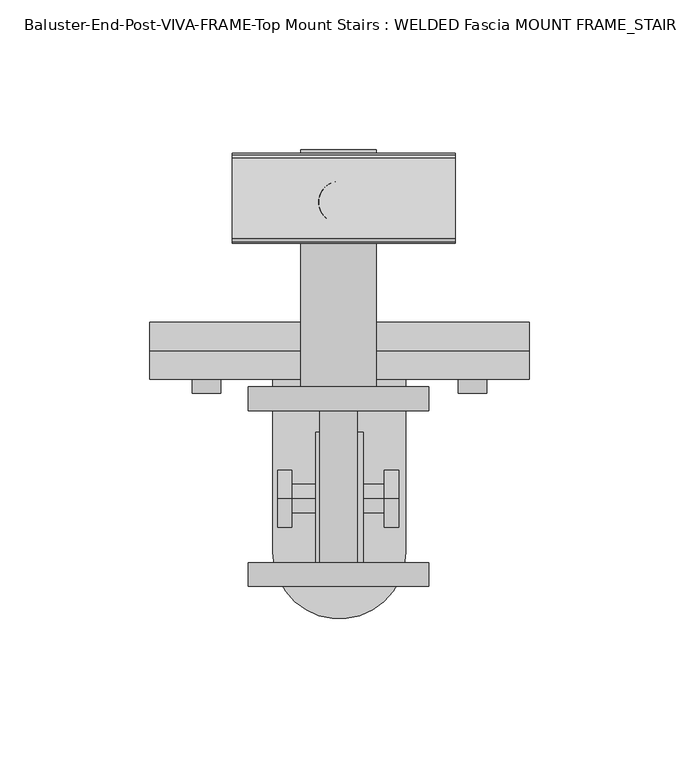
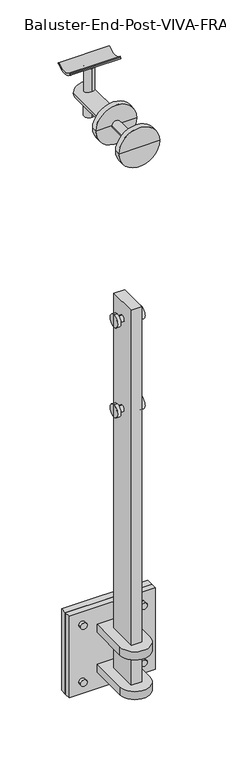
"""IFC4 building model written with IfcOpenShell, lengths in millimetres: proxy geometry, Baluster-End-Post-VIVA-FRAME-Top Mount Stairs : WELDED Fascia MOUNT FRAME_STAIR."""

from ifc_helpers import new_model, si_unit, point, frame, frame_2d, origin, place, context, project, spatial, polyline, circle_curve, trimmed, segment, composite_curve, outline, extrude, source, transform, mapped, element, save
from ifc_brep_helpers import plane_surface, cylinder_surface, advanced_brep


def baluster_end_post_viva_frame_top_mount_stairs_welded_fascia_58373508(model_context):
    return source(origin(), model_context, "Body", "SolidModel", [
        advanced_brep(
        [(-30.4813346, -152.3441, -73.6790445), (-6.6688346, -152.3441, -73.6790445), (6.0311654, -152.3441, -73.6790445), (29.8436654, -152.3441, -73.6790445), (-30.4813346, -160.2816, -73.6790445), (29.8436654, -160.2816, -73.6790445), (-30.4813346, -93.6066, -73.6790445), (-13.0188346, -93.6066, -73.6790445), (12.3811654, -93.6066, -73.6790445), (29.8436654, -93.6066, -73.6790445), (-30.4813346, -101.5441, -73.6790445), (29.8436654, -101.5441, -73.6790445), (-0.3188346, -160.2816, -73.6790445), (-13.0188346, -14.2316, -73.6790445), (-0.3188346, -14.2316, -73.6790445), (12.3811654, -14.2316, -73.6790445), (-6.6688346, -101.5441, -73.6790445), (6.0311654, -101.5441, -73.6790445)],
        [
            (0, 1),
            (1, 2, circle_curve(frame((-0.3188346, -152.3441, -73.6790445), z_axis=(0.0, -1.0, 0.0), x_axis=(1.0, 0.0, 0.0)), 6.35)),
            (2, 3),
            (3, 0, circle_curve(frame((-0.3188346, -152.3441, -73.6790445), z_axis=(0.0, 1.0, 0.0), x_axis=(1.0, 0.0, 0.0)), 30.1625)),
            (4, 0),
            (3, 5),
            (5, 4, circle_curve(frame((-0.3188346, -160.2816, -73.6790445), z_axis=(0.0, 1.0, 0.0), x_axis=(1.0, 0.0, 0.0)), 30.1625)),
            (6, 7),
            (7, 8, circle_curve(frame((-0.3188346, -93.6066, -73.6790445), z_axis=(0.0, -1.0, 0.0), x_axis=(1.0, 0.0, 0.0)), 12.7)),
            (8, 9),
            (9, 6, circle_curve(frame((-0.3188346, -93.6066, -73.6790445), z_axis=(0.0, 1.0, 0.0), x_axis=(1.0, 0.0, 0.0)), 30.1625)),
            (10, 6),
            (9, 11),
            (11, 10, circle_curve(frame((-0.3188346, -101.5441, -73.6790445), z_axis=(0.0, 1.0, 0.0), x_axis=(1.0, 0.0, 0.0)), 30.1625)),
            (3, 0, circle_curve(frame((-0.3188346, -152.3441, -73.6790445), z_axis=(0.0, -1.0, 0.0), x_axis=(1.0, 0.0, 0.0)), 30.1625)),
            (4, 5, circle_curve(frame((-0.3188346, -160.2816, -73.6790445), z_axis=(0.0, 1.0, 0.0), x_axis=(1.0, 0.0, 0.0)), 30.1625)),
            (12, 4),
            (5, 12),
            (13, 14),
            (14, 15),
            (15, 13, circle_curve(frame((-0.3188346, -14.2316, -73.6790445), z_axis=(0.0, 1.0, 0.0), x_axis=(1.0, 0.0, 0.0)), 12.7)),
            (13, 15, circle_curve(frame((-0.3188346, -14.2316, -73.6790445), z_axis=(0.0, 1.0, 0.0), x_axis=(1.0, 0.0, 0.0)), 12.7)),
            (7, 13),
            (15, 8),
            (7, 8, circle_curve(frame((-0.3188346, -93.6066, -73.6790445), z_axis=(0.0, 1.0, 0.0), x_axis=(1.0, 0.0, 0.0)), 12.7)),
            (6, 9, circle_curve(frame((-0.3188346, -93.6066, -73.6790445), z_axis=(0.0, 1.0, 0.0), x_axis=(1.0, 0.0, 0.0)), 30.1625)),
            (10, 11, circle_curve(frame((-0.3188346, -101.5441, -73.6790445), z_axis=(0.0, 1.0, 0.0), x_axis=(1.0, 0.0, 0.0)), 30.1625)),
            (16, 10),
            (11, 17),
            (17, 16, circle_curve(frame((-0.3188346, -101.5441, -73.6790445), z_axis=(0.0, 1.0, 0.0), x_axis=(1.0, 0.0, 0.0)), 6.35)),
            (16, 17, circle_curve(frame((-0.3188346, -101.5441, -73.6790445), z_axis=(0.0, 1.0, 0.0), x_axis=(1.0, 0.0, 0.0)), 6.35)),
            (1, 16),
            (17, 2),
            (1, 2, circle_curve(frame((-0.3188346, -152.3441, -73.6790445), z_axis=(0.0, 1.0, 0.0), x_axis=(1.0, 0.0, 0.0)), 6.35)),
        ],
        [
            plane_surface(frame((-0.3188346, -152.3441, -73.6790445), z_axis=(0.0, 1.0, 0.0), x_axis=(1.0, 0.0, 0.0))),
            cylinder_surface(frame((-0.3188346, -1625.5441, -73.6790445), z_axis=(0.0, -1.0, 0.0), x_axis=(1.0, 0.0, 0.0)), 30.1625),
            plane_surface(frame((-0.3188346, -93.6066, -73.6790445), z_axis=(0.0, 1.0, 0.0), x_axis=(1.0, 0.0, 0.0))),
            plane_surface(frame((-0.3188346, -160.2816, -73.6790445), z_axis=(0.0, -1.0, 0.0), x_axis=(1.0, 0.0, 0.0))),
            plane_surface(frame((-0.3188346, -14.2316, -73.6790445), z_axis=(0.0, 1.0, 0.0), x_axis=(1.0, 0.0, 0.0))),
            cylinder_surface(frame((-0.3188346, -1625.5441, -73.6790445), z_axis=(0.0, -1.0, 0.0), x_axis=(1.0, 0.0, 0.0)), 12.7),
            plane_surface(frame((-0.3188346, -101.5441, -73.6790445), z_axis=(0.0, -1.0, 0.0), x_axis=(1.0, 0.0, 0.0))),
            cylinder_surface(frame((-0.3188346, -1625.5441, -73.6790445), z_axis=(0.0, -1.0, 0.0), x_axis=(1.0, 0.0, 0.0)), 6.35),
        ],
        [
            (0, [[1, 2, 3, 4]]),
            (1, [[5, -4, 6, 7]]),
            (2, [[8, 9, 10, 11]]),
            (1, [[12, -11, 13, 14]]),
            (1, [[-6, 15, -5, 16]]),
            (3, [[17, -7, 18]]),
            (3, [[-18, -16, -17]]),
            (4, [[19, 20, 21]]),
            (4, [[-20, -19, 22]]),
            (5, [[23, -21, 24, -9]]),
            (5, [[-24, -22, -23, 25]]),
            (2, [[-10, -25, -8, 26]]),
            (1, [[-13, -26, -12, 27]]),
            (6, [[28, -14, 29, 30]]),
            (6, [[-29, -27, -28, 31]]),
            (7, [[32, -30, 33, -2]]),
            (7, [[-33, -31, -32, 34]]),
            (0, [[-3, -34, -1, -15]]),
        ],
    ),
        extrude(outline(composite_curve([segment(trimmed(circle_curve(frame_2d((0.0, 7.0)), 7.0), [point((0.0, 14.0))], [point((0.0, 0.0))], False, "CARTESIAN"), True, "CONTINUOUS"), segment(trimmed(circle_curve(frame_2d((0.0, 7.0)), 7.0), [point((0.0, 0.0))], [point((0.0, 14.0))], False, "CARTESIAN"), True, "CONTINUOUS")], self_intersect=False)), frame((-0.4484997, -38.8292391, -100.6444351), z_axis=(0.0059036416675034, 0.0, 0.9999825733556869), x_axis=(0.9999825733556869, 0.0, -0.0059036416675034)), (0.0, 0.0, 1.0), 75.97),
        extrude(outline(composite_curve([segment(polyline([(5.2466063, -13.9247916), (4.2292193, -14.9511812)]), True, "CONTINUOUS"), segment(trimmed(circle_curve(frame_2d((3.1638974, -13.8952033)), 1.5), [point((4.2292193, -14.9511812))], [point((2.0329756, -14.8806048))], False, "CARTESIAN"), True, "CONTINUOUS"), segment(trimmed(circle_curve(frame_2d((18.6575251, -0.3952033)), 22.05), [point((2.0329756, -14.8806048))], [point((2.0329756, 14.0901981))], False, "CARTESIAN"), True, "CONTINUOUS"), segment(trimmed(circle_curve(frame_2d((3.1638974, 13.1047967)), 1.5), [point((2.0329756, 14.0901981))], [point((4.2292193, 14.1607745))], False, "CARTESIAN"), True, "CONTINUOUS"), segment(polyline([(4.2292193, 14.1607745), (5.2466063, 13.1343849)]), True, "CONTINUOUS"), segment(trimmed(circle_curve(frame_2d((18.6575251, -0.3952033)), 19.05), [point((5.2466063, 13.1343849))], [point((5.2466063, -13.9247916))], True, "CARTESIAN"), True, "CONTINUOUS")], self_intersect=False)), frame((38.6744355, -30.1020067, -21.2832848), z_axis=(-0.9999997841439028, 0.0, 0.0006570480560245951), x_axis=(0.0006570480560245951, 0.0, 0.9999997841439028)), (0.0, 0.0, 1.0), 74.5229187),
        extrude(outline(polyline([(7.9375, -153.1423118), (-7.9375, -153.1423118), (-7.9375, -108.6923118), (7.9375, -108.6923118), (7.9375, -153.1423118)])), frame((0.0, 0.0, -920.3786931), z_axis=(0.0, 0.0, 1.0), x_axis=(1.0, 0.0, 0.0)), (0.0, 0.0, 1.0), 590.6930486),
        extrude(outline(composite_curve([segment(polyline([(-22.225, -148.7552651), (-22.225, -90.8543584), (22.225, -90.8543584), (22.225, -148.7552651)]), True, "CONTINUOUS"), segment(trimmed(circle_curve(frame_2d((0.0, -148.7552651)), 22.225), [point((22.225, -148.7552651))], [point((-22.225, -148.7552651))], False, "CARTESIAN"), True, "CONTINUOUS")], self_intersect=False)), frame((0.0, 0.0, -926.6345072), z_axis=(0.0, 0.0, 1.0), x_axis=(1.0, 0.0, 0.0)), (0.0, 0.0, 1.0), 12.7),
        extrude(outline(composite_curve([segment(polyline([(22.225, -90.8543584), (22.225, -148.7552651)]), True, "CONTINUOUS"), segment(trimmed(circle_curve(frame_2d((0.0, -148.7552651)), 22.225), [point((22.225, -148.7552651))], [point((-22.225, -148.7552651))], False, "CARTESIAN"), True, "CONTINUOUS"), segment(polyline([(-22.225, -148.7552651), (-22.225, -90.8543584), (22.225, -90.8543584)]), True, "CONTINUOUS")], self_intersect=False)), frame((0.0, 0.0, -864.7093072), z_axis=(0.0, 0.0, 1.0), x_axis=(1.0, 0.0, 0.0)), (0.0, 0.0, 1.0), 12.7),
        extrude(outline(composite_curve([segment(trimmed(circle_curve(frame_2d((-844.0591072, 44.4449319)), 4.7752), [point((-844.0591072, 49.2201319))], [point((-844.0591072, 39.6697319))], False, "CARTESIAN"), True, "CONTINUOUS"), segment(trimmed(circle_curve(frame_2d((-844.0591072, 44.4449319)), 4.7752), [point((-844.0591072, 39.6697319))], [point((-844.0591072, 49.2201319))], False, "CARTESIAN"), True, "CONTINUOUS")], self_intersect=False)), frame((0.0, -95.6295584, 0.0), z_axis=(0.0, 1.0, 0.0), x_axis=(0.0, 0.0, 1.0)), (0.0, 0.0, 1.0), 14.3002),
        extrude(outline(composite_curve([segment(trimmed(circle_curve(frame_2d((-844.0591072, -44.4449319)), 4.7752), [point((-844.0591072, -39.6697319))], [point((-844.0591072, -49.2201319))], False, "CARTESIAN"), True, "CONTINUOUS"), segment(trimmed(circle_curve(frame_2d((-844.0591072, -44.4449319)), 4.7752), [point((-844.0591072, -49.2201319))], [point((-844.0591072, -39.6697319))], False, "CARTESIAN"), True, "CONTINUOUS")], self_intersect=False)), frame((0.0, -95.6295584, 0.0), z_axis=(0.0, 1.0, 0.0), x_axis=(0.0, 0.0, 1.0)), (0.0, 0.0, 1.0), 14.3002),
        extrude(outline(composite_curve([segment(trimmed(circle_curve(frame_2d((-932.9591072, -44.4449319)), 4.7752), [point((-932.9591072, -39.6697319))], [point((-932.9591072, -49.2201319))], False, "CARTESIAN"), True, "CONTINUOUS"), segment(trimmed(circle_curve(frame_2d((-932.9591072, -44.4449319)), 4.7752), [point((-932.9591072, -49.2201319))], [point((-932.9591072, -39.6697319))], False, "CARTESIAN"), True, "CONTINUOUS")], self_intersect=False)), frame((0.0, -95.6295584, 0.0), z_axis=(0.0, 1.0, 0.0), x_axis=(0.0, 0.0, 1.0)), (0.0, 0.0, 1.0), 14.3002),
        extrude(outline(composite_curve([segment(trimmed(circle_curve(frame_2d((-932.9591072, 44.4449319)), 4.7752), [point((-932.9591072, 49.2201319))], [point((-932.9591072, 39.6697319))], False, "CARTESIAN"), True, "CONTINUOUS"), segment(trimmed(circle_curve(frame_2d((-932.9591072, 44.4449319)), 4.7752), [point((-932.9591072, 39.6697319))], [point((-932.9591072, 49.2201319))], False, "CARTESIAN"), True, "CONTINUOUS")], self_intersect=False)), frame((0.0, -95.6295584, 0.0), z_axis=(0.0, 1.0, 0.0), x_axis=(0.0, 0.0, 1.0)), (0.0, 0.0, 1.0), 14.3002),
        extrude(outline(polyline([(63.4980216, -81.3293584), (-63.4980216, -81.3293584), (-63.4980216, -71.8043584), (63.4980216, -71.8043584), (63.4980216, -81.3293584)])), frame((0.0, 0.0, -952.0091072), z_axis=(0.0, 0.0, 1.0), x_axis=(1.0, 0.0, 0.0)), (0.0, 0.0, 1.0), 127.0),
        extrude(outline(polyline([(63.4980216, -90.8543584), (-63.4980216, -90.8543584), (-63.4980216, -81.3293584), (63.4980216, -81.3293584), (63.4980216, -90.8543584)])), frame((0.0, 0.0, -952.0091072), z_axis=(0.0, 0.0, 1.0), x_axis=(1.0, 0.0, 0.0)), (0.0, 0.0, 1.0), 127.0),
        advanced_brep(
        [(-20.6502, -130.9116, -504.8504), (-20.6502, -130.9116, -485.7496), (-20.6502, -130.9116, -495.3), (-15.875, -130.9116, -504.8504), (-15.875, -130.9116, -485.7496), (-15.875, -130.9116, -500.0752), (-15.875, -130.9116, -490.5248), (15.0622, -130.9116, -500.0752), (15.0622, -130.9116, -490.5248), (15.0622, -130.9116, -504.8504), (15.0622, -130.9116, -485.7496), (19.8374, -130.9116, -504.8504), (19.8374, -130.9116, -485.7496), (19.8374, -130.9116, -495.3)],
        [
            (0, 1, circle_curve(frame((-20.6502, -130.9116, -495.3), z_axis=(-1.0, 0.0, 0.0), x_axis=(0.0, 0.0, 1.0)), 9.5504)),
            (1, 2),
            (2, 0),
            (1, 0, circle_curve(frame((-20.6502, -130.9116, -495.3), z_axis=(-1.0, 0.0, 0.0), x_axis=(0.0, 0.0, 1.0)), 9.5504)),
            (3, 4, circle_curve(frame((-15.875, -130.9116, -495.3), z_axis=(-1.0, 0.0, 0.0), x_axis=(0.0, 0.0, 1.0)), 9.5504)),
            (4, 1),
            (0, 3),
            (4, 3, circle_curve(frame((-15.875, -130.9116, -495.3), z_axis=(-1.0, 0.0, 0.0), x_axis=(0.0, 0.0, 1.0)), 9.5504)),
            (5, 6, circle_curve(frame((-15.875, -130.9116, -495.3), z_axis=(-1.0, 0.0, 0.0), x_axis=(0.0, 0.0, 1.0)), 4.7752)),
            (6, 4),
            (3, 5),
            (6, 5, circle_curve(frame((-15.875, -130.9116, -495.3), z_axis=(-1.0, 0.0, 0.0), x_axis=(0.0, 0.0, 1.0)), 4.7752)),
            (7, 8, circle_curve(frame((15.0622, -130.9116, -495.3), z_axis=(-1.0, 0.0, 0.0), x_axis=(0.0, 0.0, 1.0)), 4.7752)),
            (8, 6),
            (5, 7),
            (8, 7, circle_curve(frame((15.0622, -130.9116, -495.3), z_axis=(-1.0, 0.0, 0.0), x_axis=(0.0, 0.0, 1.0)), 4.7752)),
            (9, 10, circle_curve(frame((15.0622, -130.9116, -495.3), z_axis=(-1.0, 0.0, 0.0), x_axis=(0.0, 0.0, 1.0)), 9.5504)),
            (10, 8),
            (7, 9),
            (10, 9, circle_curve(frame((15.0622, -130.9116, -495.3), z_axis=(-1.0, 0.0, 0.0), x_axis=(0.0, 0.0, 1.0)), 9.5504)),
            (11, 12, circle_curve(frame((19.8374, -130.9116, -495.3), z_axis=(-1.0, 0.0, 0.0), x_axis=(0.0, 0.0, 1.0)), 9.5504)),
            (12, 10),
            (9, 11),
            (12, 11, circle_curve(frame((19.8374, -130.9116, -495.3), z_axis=(-1.0, 0.0, 0.0), x_axis=(0.0, 0.0, 1.0)), 9.5504)),
            (13, 12),
            (11, 13),
        ],
        [
            plane_surface(frame((-20.6502, -130.9116, -495.3), z_axis=(-1.0, 0.0, 0.0), x_axis=(0.0, 0.0, 1.0))),
            cylinder_surface(frame((-3412.2305571, -130.9116, -495.3), z_axis=(1.0, 0.0, 0.0), x_axis=(0.0, 0.0, 1.0)), 9.5504),
            plane_surface(frame((-15.875, -130.9116, -495.3), z_axis=(1.0, 0.0, 0.0), x_axis=(0.0, 0.0, 1.0))),
            cylinder_surface(frame((-3412.2305571, -130.9116, -495.3), z_axis=(1.0, 0.0, 0.0), x_axis=(0.0, 0.0, 1.0)), 4.7752),
            plane_surface(frame((15.0622, -130.9116, -495.3), z_axis=(-1.0, 0.0, 0.0), x_axis=(0.0, 0.0, 1.0))),
            plane_surface(frame((19.8374, -130.9116, -495.3), z_axis=(1.0, 0.0, 0.0), x_axis=(0.0, 0.0, 1.0))),
        ],
        [
            (0, [[1, 2, 3]]),
            (0, [[4, -3, -2]]),
            (1, [[5, 6, -1, 7]]),
            (1, [[8, -7, -4, -6]]),
            (2, [[9, 10, -5, 11]]),
            (2, [[12, -11, -8, -10]]),
            (3, [[13, 14, -9, 15]]),
            (3, [[16, -15, -12, -14]]),
            (4, [[17, 18, -13, 19]]),
            (4, [[20, -19, -16, -18]]),
            (1, [[21, 22, -17, 23]]),
            (1, [[24, -23, -20, -22]]),
            (5, [[25, -21, 26]]),
            (5, [[-26, -24, -25]]),
        ],
    ),
        advanced_brep(
        [(-20.6502, -130.9116, -364.6360445), (-20.6502, -130.9116, -345.5352445), (-20.6502, -130.9116, -355.0856445), (-15.875, -130.9116, -364.6360445), (-15.875, -130.9116, -345.5352445), (-15.875, -130.9116, -359.8608445), (-15.875, -130.9116, -350.3104445), (15.0622, -130.9116, -359.8608445), (15.0622, -130.9116, -350.3104445), (15.0622, -130.9116, -364.6360445), (15.0622, -130.9116, -345.5352445), (19.8374, -130.9116, -364.6360445), (19.8374, -130.9116, -345.5352445), (19.8374, -130.9116, -355.0856445)],
        [
            (0, 1, circle_curve(frame((-20.6502, -130.9116, -355.0856445), z_axis=(-1.0, 0.0, 0.0), x_axis=(0.0, 0.0, 1.0)), 9.5504)),
            (1, 2),
            (2, 0),
            (1, 0, circle_curve(frame((-20.6502, -130.9116, -355.0856445), z_axis=(-1.0, 0.0, 0.0), x_axis=(0.0, 0.0, 1.0)), 9.5504)),
            (3, 4, circle_curve(frame((-15.875, -130.9116, -355.0856445), z_axis=(-1.0, 0.0, 0.0), x_axis=(0.0, 0.0, 1.0)), 9.5504)),
            (4, 1),
            (0, 3),
            (4, 3, circle_curve(frame((-15.875, -130.9116, -355.0856445), z_axis=(-1.0, 0.0, 0.0), x_axis=(0.0, 0.0, 1.0)), 9.5504)),
            (5, 6, circle_curve(frame((-15.875, -130.9116, -355.0856445), z_axis=(-1.0, 0.0, 0.0), x_axis=(0.0, 0.0, 1.0)), 4.7752)),
            (6, 4),
            (3, 5),
            (6, 5, circle_curve(frame((-15.875, -130.9116, -355.0856445), z_axis=(-1.0, 0.0, 0.0), x_axis=(0.0, 0.0, 1.0)), 4.7752)),
            (7, 8, circle_curve(frame((15.0622, -130.9116, -355.0856445), z_axis=(-1.0, 0.0, 0.0), x_axis=(0.0, 0.0, 1.0)), 4.7752)),
            (8, 6),
            (5, 7),
            (8, 7, circle_curve(frame((15.0622, -130.9116, -355.0856445), z_axis=(-1.0, 0.0, 0.0), x_axis=(0.0, 0.0, 1.0)), 4.7752)),
            (9, 10, circle_curve(frame((15.0622, -130.9116, -355.0856445), z_axis=(-1.0, 0.0, 0.0), x_axis=(0.0, 0.0, 1.0)), 9.5504)),
            (10, 8),
            (7, 9),
            (10, 9, circle_curve(frame((15.0622, -130.9116, -355.0856445), z_axis=(-1.0, 0.0, 0.0), x_axis=(0.0, 0.0, 1.0)), 9.5504)),
            (11, 12, circle_curve(frame((19.8374, -130.9116, -355.0856445), z_axis=(-1.0, 0.0, 0.0), x_axis=(0.0, 0.0, 1.0)), 9.5504)),
            (12, 10),
            (9, 11),
            (12, 11, circle_curve(frame((19.8374, -130.9116, -355.0856445), z_axis=(-1.0, 0.0, 0.0), x_axis=(0.0, 0.0, 1.0)), 9.5504)),
            (13, 12),
            (11, 13),
        ],
        [
            plane_surface(frame((-20.6502, -130.9116, -355.0856445), z_axis=(-1.0, 0.0, 0.0), x_axis=(0.0, 0.0, 1.0))),
            cylinder_surface(frame((-3412.2305571, -130.9116, -355.0856445), z_axis=(1.0, 0.0, 0.0), x_axis=(0.0, 0.0, 1.0)), 9.5504),
            plane_surface(frame((-15.875, -130.9116, -355.0856445), z_axis=(1.0, 0.0, 0.0), x_axis=(0.0, 0.0, 1.0))),
            cylinder_surface(frame((-3412.2305571, -130.9116, -355.0856445), z_axis=(1.0, 0.0, 0.0), x_axis=(0.0, 0.0, 1.0)), 4.7752),
            plane_surface(frame((15.0622, -130.9116, -355.0856445), z_axis=(-1.0, 0.0, 0.0), x_axis=(0.0, 0.0, 1.0))),
            plane_surface(frame((19.8374, -130.9116, -355.0856445), z_axis=(1.0, 0.0, 0.0), x_axis=(0.0, 0.0, 1.0))),
        ],
        [
            (0, [[1, 2, 3]]),
            (0, [[4, -3, -2]]),
            (1, [[5, 6, -1, 7]]),
            (1, [[8, -7, -4, -6]]),
            (2, [[9, 10, -5, 11]]),
            (2, [[12, -11, -8, -10]]),
            (3, [[13, 14, -9, 15]]),
            (3, [[16, -15, -12, -14]]),
            (4, [[17, 18, -13, 19]]),
            (4, [[20, -19, -16, -18]]),
            (1, [[21, 22, -17, 23]]),
            (1, [[24, -23, -20, -22]]),
            (5, [[25, -21, 26]]),
            (5, [[-26, -24, -25]]),
        ],
    ),
    ])


if __name__ == "__main__":
    model = new_model("IFC4")
    model_context = context("Model", 3, world=origin())
    ifc_project = project(units=[si_unit("LENGTHUNIT", "METRE", prefix="MILLI")], contexts=[model_context])
    site = spatial("IfcSite", under=ifc_project)
    building = spatial("IfcBuilding", under=site)
    placement = place(None, origin())
    baluster_end_post_viva_frame_top_mount_stairs_welded_fascia_shape = baluster_end_post_viva_frame_top_mount_stairs_welded_fascia_58373508(model_context)
    element("IfcBuildingElementProxy", 1, Name="Baluster-End-Post-VIVA-FRAME-Top Mount Stairs : WELDED Fascia MOUNT FRAME_STAIR", ObjectType="Baluster-End-Post-VIVA-FRAME-Top Mount Stairs : WELDED Fascia MOUNT FRAME_STAIR", at=placement, inside=building, context=model_context, shape_type="MappedRepresentation", body=[
        mapped(baluster_end_post_viva_frame_top_mount_stairs_welded_fascia_shape, transform((0.0, 0.0, 0.0), x_axis=(1.0, 0.0, 0.0), y_axis=(0.0, 1.0, 0.0), z_axis=(0.0, 0.0, 1.0))),
    ])
    save(model, "model.ifc")
